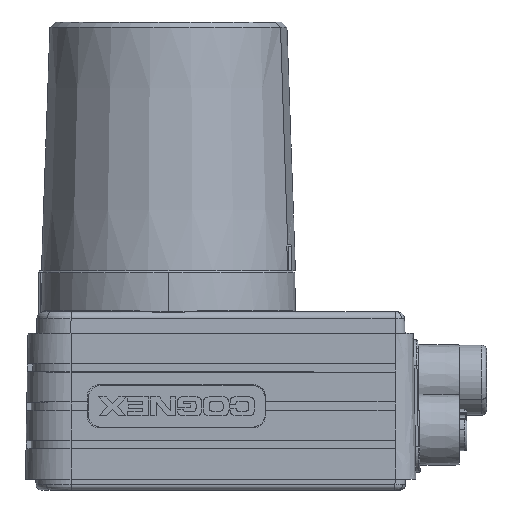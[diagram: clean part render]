
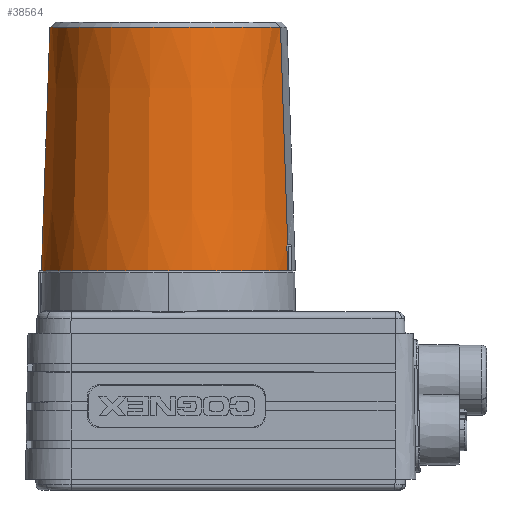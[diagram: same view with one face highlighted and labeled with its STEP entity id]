
A CAD part, left-side view. The second image highlights one B-rep face of the part: STEP entity #38564.
In plain terms, the highlighted conical face has half-angle 2 degrees and reference radius 24.4 mm.
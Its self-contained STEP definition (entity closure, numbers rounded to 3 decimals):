
#5414 = VERTEX_POINT ( 'NONE', #199055 ) ;
#11983 = CARTESIAN_POINT ( 'NONE',  ( 0., 10.045, 44.995 ) ) ;
#16926 = EDGE_CURVE ( 'NONE', #5414, #217075, #181326, .T. ) ;
#17951 = DIRECTION ( 'NONE',  ( -0.326, -0.946, 0. ) ) ;
#21050 = CIRCLE ( 'NONE', #169143, 24.225 ) ;
#27791 = EDGE_CURVE ( 'NONE', #212085, #86765, #203291, .T. ) ;
#31026 = DIRECTION ( 'NONE',  ( -0.326, -0.946, 0. ) ) ;
#35213 = EDGE_CURVE ( 'NONE', #161740, #172936, #149044, .T. ) ;
#35356 = CARTESIAN_POINT ( 'NONE',  ( -8.397, -12.806, 41.579 ) ) ;
#35560 = VERTEX_POINT ( 'NONE', #233300 ) ;
#38399 = CARTESIAN_POINT ( 'NONE',  ( 7.433, 33.169, 43.162 ) ) ;
#38564 = ADVANCED_FACE ( 'NONE', ( #238550 ), #232602, .T. ) ;
#39209 = AXIS2_PLACEMENT_3D ( 'NONE', #66312, #197936, #85302 ) ;
#45557 = EDGE_CURVE ( 'NONE', #117040, #5414, #181766, .T. ) ;
#47177 = ORIENTED_EDGE ( 'NONE', *, *, #155956, .T. ) ;
#48308 = CARTESIAN_POINT ( 'NONE',  ( -8.361, -12.701, 44.745 ) ) ;
#49056 = LINE ( 'NONE', #78749, #243229 ) ;
#63727 = CARTESIAN_POINT ( 'NONE',  ( -7.412, -11.481, 86.796 ) ) ;
#66312 = CARTESIAN_POINT ( 'NONE',  ( 0., 10.045, 39.995 ) ) ;
#66933 = EDGE_LOOP ( 'NONE', ( #195426, #239760, #115050, #102003, #115909, #186468, #72353, #106330, #47177, #174601 ) ) ;
#66953 = DIRECTION ( 'NONE',  ( 0., 0., -1. ) ) ;
#67642 = CARTESIAN_POINT ( 'NONE',  ( -7.887, -12.861, 44.995 ) ) ;
#72353 = ORIENTED_EDGE ( 'NONE', *, *, #103486, .T. ) ;
#73128 = CARTESIAN_POINT ( 'NONE',  ( -8.379, -12.754, 43.162 ) ) ;
#78715 = AXIS2_PLACEMENT_3D ( 'NONE', #236420, #66953, #123738 ) ;
#78749 = CARTESIAN_POINT ( 'NONE',  ( 7.944, 33.115, 39.995 ) ) ;
#84127 = CIRCLE ( 'NONE', #215256, 24.225 ) ;
#85302 = DIRECTION ( 'NONE',  ( -0.326, -0.946, 0. ) ) ;
#86765 = VERTEX_POINT ( 'NONE', #223998 ) ;
#94378 = CARTESIAN_POINT ( 'NONE',  ( 7.65, 33.03, 44.995 ) ) ;
#95180 = CARTESIAN_POINT ( 'NONE',  ( 7.451, 33.221, 41.579 ) ) ;
#95677 = DIRECTION ( 'NONE',  ( 0., 0., 1. ) ) ;
#95971 = EDGE_CURVE ( 'NONE', #35560, #117040, #21050, .T. ) ;
#97292 = DIRECTION ( 'NONE',  ( -0.011, -0.033, -0.999 ) ) ;
#98790 = LINE ( 'NONE', #228866, #148747 ) ;
#101155 = VERTEX_POINT ( 'NONE', #206881 ) ;
#102003 = ORIENTED_EDGE ( 'NONE', *, *, #45557, .T. ) ;
#103486 = EDGE_CURVE ( 'NONE', #101155, #212085, #236519, .T. ) ;
#106330 = ORIENTED_EDGE ( 'NONE', *, *, #27791, .T. ) ;
#115050 = ORIENTED_EDGE ( 'NONE', *, *, #95971, .T. ) ;
#115909 = ORIENTED_EDGE ( 'NONE', *, *, #16926, .T. ) ;
#117040 = VERTEX_POINT ( 'NONE', #94378 ) ;
#123738 = DIRECTION ( 'NONE',  ( -0.326, -0.946, 0. ) ) ;
#124225 = CARTESIAN_POINT ( 'NONE',  ( 7.415, 33.116, 44.745 ) ) ;
#125318 = AXIS2_PLACEMENT_3D ( 'NONE', #243355, #130708, #17951 ) ;
#130708 = DIRECTION ( 'NONE',  ( 0., 0., 1. ) ) ;
#131052 = CARTESIAN_POINT ( 'NONE',  ( 7.412, 31.57, 86.796 ) ) ;
#141967 = CARTESIAN_POINT ( 'NONE',  ( -8.282, -12.727, 44.829 ) ) ;
#142396 = CARTESIAN_POINT ( 'NONE',  ( -8.361, -12.701, 44.745 ) ) ;
#143661 = DIRECTION ( 'NONE',  ( 0., 0., 1. ) ) ;
#144573 = EDGE_CURVE ( 'NONE', #217075, #101155, #206593, .T. ) ;
#148747 = VECTOR ( 'NONE', #97292, 1000. ) ;
#149044 = CIRCLE ( 'NONE', #125318, 22.766 ) ;
#155956 = EDGE_CURVE ( 'NONE', #86765, #241045, #84127, .T. ) ;
#155994 = EDGE_CURVE ( 'NONE', #172936, #241045, #98790, .T. ) ;
#161740 = VERTEX_POINT ( 'NONE', #131052 ) ;
#166886 = CARTESIAN_POINT ( 'NONE',  ( -8.415, -12.858, 39.995 ) ) ;
#169143 = AXIS2_PLACEMENT_3D ( 'NONE', #11983, #143661, #31026 ) ;
#169958 = CARTESIAN_POINT ( 'NONE',  ( 7.415, 33.116, 44.745 ) ) ;
#172563 = DIRECTION ( 'NONE',  ( 0.011, 0.033, -0.999 ) ) ;
#172936 = VERTEX_POINT ( 'NONE', #63727 ) ;
#174601 = ORIENTED_EDGE ( 'NONE', *, *, #155994, .F. ) ;
#174919 = CARTESIAN_POINT ( 'NONE',  ( 7.469, 33.273, 39.995 ) ) ;
#177428 = CARTESIAN_POINT ( 'NONE',  ( -8.202, -12.753, 44.912 ) ) ;
#179906 = CARTESIAN_POINT ( 'NONE',  ( -8.123, -12.778, 44.995 ) ) ;
#181326 = B_SPLINE_CURVE_WITH_KNOTS ( 'NONE', 3,
 ( #169958, #38399, #95180, #226732 ),
 .UNSPECIFIED., .F., .F.,
 ( 4, 4 ),
 ( 0., 0.005 ),
 .UNSPECIFIED. ) ;
#181766 =( BOUNDED_CURVE ( )  B_SPLINE_CURVE ( 3, ( #235263, #217994, #236901, #124225 ),
 .UNSPECIFIED., .F., .F. ) 
 B_SPLINE_CURVE_WITH_KNOTS ( ( 4, 4 ),
 ( 4.688, 4.698 ),
 .UNSPECIFIED. ) 
 CURVE ( )  GEOMETRIC_REPRESENTATION_ITEM ( )  RATIONAL_B_SPLINE_CURVE ( ( 1., 1., 1., 1. ) ) 
 REPRESENTATION_ITEM ( '' )  );
#183493 = EDGE_CURVE ( 'NONE', #161740, #35560, #49056, .T. ) ;
#186468 = ORIENTED_EDGE ( 'NONE', *, *, #144573, .T. ) ;
#195426 = ORIENTED_EDGE ( 'NONE', *, *, #35213, .F. ) ;
#197936 = DIRECTION ( 'NONE',  ( 0., 0., 1. ) ) ;
#199055 = CARTESIAN_POINT ( 'NONE',  ( 7.415, 33.116, 44.745 ) ) ;
#203291 =( BOUNDED_CURVE ( )  B_SPLINE_CURVE ( 3, ( #48308, #141967, #177428, #179906 ),
 .UNSPECIFIED., .F., .F. ) 
 B_SPLINE_CURVE_WITH_KNOTS ( ( 4, 4 ),
 ( 1.585, 1.595 ),
 .UNSPECIFIED. ) 
 CURVE ( )  GEOMETRIC_REPRESENTATION_ITEM ( )  RATIONAL_B_SPLINE_CURVE ( ( 1., 1., 1., 1. ) ) 
 REPRESENTATION_ITEM ( '' )  );
#204750 = CARTESIAN_POINT ( 'NONE',  ( -8.361, -12.701, 44.745 ) ) ;
#206593 = CIRCLE ( 'NONE', #39209, 24.4 ) ;
#206881 = CARTESIAN_POINT ( 'NONE',  ( -8.415, -12.858, 39.995 ) ) ;
#208332 = CARTESIAN_POINT ( 'NONE',  ( 0., 10.045, 44.995 ) ) ;
#212085 = VERTEX_POINT ( 'NONE', #142396 ) ;
#215256 = AXIS2_PLACEMENT_3D ( 'NONE', #208332, #95677, #227241 ) ;
#217075 = VERTEX_POINT ( 'NONE', #174919 ) ;
#217994 = CARTESIAN_POINT ( 'NONE',  ( 7.572, 33.059, 44.912 ) ) ;
#223998 = CARTESIAN_POINT ( 'NONE',  ( -8.123, -12.778, 44.995 ) ) ;
#226732 = CARTESIAN_POINT ( 'NONE',  ( 7.469, 33.273, 39.995 ) ) ;
#227241 = DIRECTION ( 'NONE',  ( -0.326, -0.946, 0. ) ) ;
#228866 = CARTESIAN_POINT ( 'NONE',  ( -7.944, -13.026, 39.995 ) ) ;
#232602 = CONICAL_SURFACE ( 'NONE', #78715, 24.4, 0.035 ) ;
#233300 = CARTESIAN_POINT ( 'NONE',  ( 7.887, 32.95, 44.995 ) ) ;
#235263 = CARTESIAN_POINT ( 'NONE',  ( 7.65, 33.03, 44.995 ) ) ;
#236420 = CARTESIAN_POINT ( 'NONE',  ( 0., 10.045, 39.995 ) ) ;
#236519 = B_SPLINE_CURVE_WITH_KNOTS ( 'NONE', 3,
 ( #166886, #35356, #73128, #204750 ),
 .UNSPECIFIED., .F., .F.,
 ( 4, 4 ),
 ( 0., 0.005 ),
 .UNSPECIFIED. ) ;
#236901 = CARTESIAN_POINT ( 'NONE',  ( 7.494, 33.088, 44.829 ) ) ;
#238550 = FACE_OUTER_BOUND ( 'NONE', #66933, .T. ) ;
#239760 = ORIENTED_EDGE ( 'NONE', *, *, #183493, .T. ) ;
#241045 = VERTEX_POINT ( 'NONE', #67642 ) ;
#243229 = VECTOR ( 'NONE', #172563, 1000. ) ;
#243355 = CARTESIAN_POINT ( 'NONE',  ( 0., 10.045, 86.796 ) ) ;
